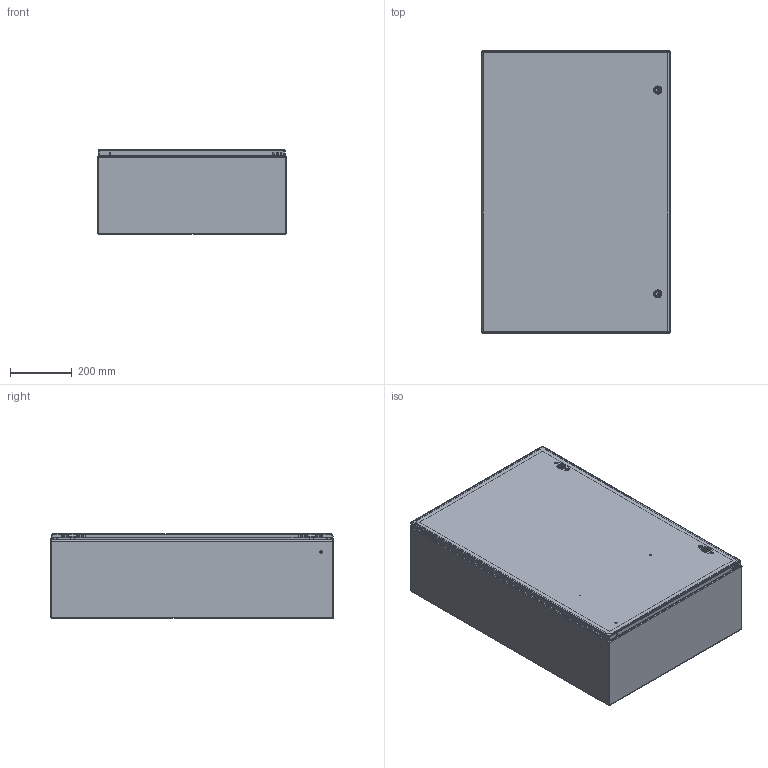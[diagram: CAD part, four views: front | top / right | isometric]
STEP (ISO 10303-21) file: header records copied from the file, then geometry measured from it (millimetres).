
FILE_DESCRIPTION (( 'STEP AP203' ), '1' );
FILE_NAME ('csd362410lg.STEP', '2018-03-29T14:13:21', ( '' ), ( '' ), 'SwSTEP 2.0', 'SolidWorks 2014', '' );
FILE_SCHEMA (( 'CONFIG_CONTROL_DESIGN' ));
Length unit declared in the file: inch
Products named in the file (27): 87932266; 87755923_default; 87929507; 87938009; 87541995; 99401225; csd362410lg; 87937943_assy; 64202001; 23271001_After Weld; 87543027; 64210001; 87951453; 89076193; 64203001; 87936142; 89131630; 87927840_87927840; 87931362_87931362; 89076399; 64101001; 87937983_weldment; 87929767; 87932903; 64201001; 87929769_Installed on Pin; 64138001
Assembly tree (45 placements, depth 4):
  csd362410lg
    87951453
      87755923_default
      99401225
      23271001_After Weld  x6
    87937943_assy
      87937983_weldment
        87936142
        99401225
        87931362_87931362  x6
      64101001  x2
        64201001
        87932266
        87541995
        64202001
        64210001
        64203001
        87927840_87927840
      87932903  x4
      64138001  x2
      87938009
    87543027  x2
    89076399  x2
      89076193
      89131630
    87929507  x2
      87929767
      87929769_Installed on Pin
Bounding box: 609.6 x 914.7 x 274.7 mm (x, y, z)
Volume: 3313611.1 mm3; surface area: 4194912.6 mm2
Topology: 47 solids, 47 shells, 2353 faces, 5800 edges, 3504 vertices
Faces by surface type: plane 855, cylinder 714, bspline 496, cone 140, torus 140, sphere 8
Entity records: 44722 total; most frequent: CARTESIAN_POINT 14495, ORIENTED_EDGE 5880, DIRECTION 5172, EDGE_CURVE 2940, AXIS2_PLACEMENT_3D 1855, VERTEX_POINT 1806, LINE 1462, VECTOR 1462
